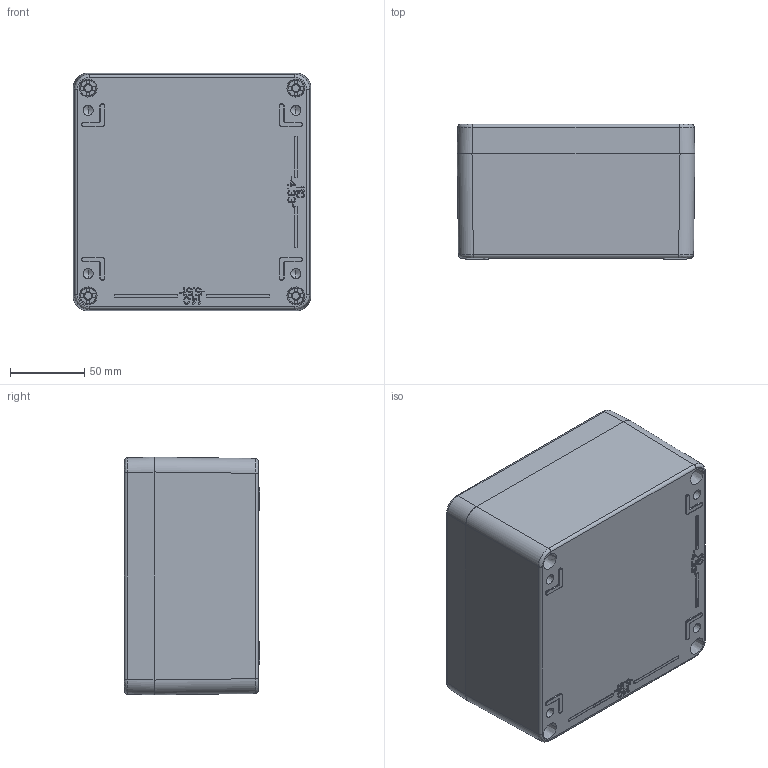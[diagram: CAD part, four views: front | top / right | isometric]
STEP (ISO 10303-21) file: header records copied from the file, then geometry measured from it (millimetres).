
FILE_DESCRIPTION((''),'2;1');
FILE_NAME('1270950000_ASM','2024-02-20T11:14:41',('Stephanie.Hoppe'),(''),'CREO PARAMETRIC BY PTC INC, 2022124','CREO PARAMETRIC BY PTC INC, 2022124','');
FILE_SCHEMA(('AUTOMOTIVE_DESIGN { 1 0 10303 214 1 1 1 1 }'));
Products named in the file (11): 9301044000_AF0; 9261018000; 9601347000_ASM; 9601605000_ASM; 9302012000_AF0; 9261116000; 9611141000_ASM; DICHTUNG_CA270_280; 9611356000_ASM; 9261021000; 1270950000_ASM
Assembly tree (16 placements, depth 4):
  1270950000_ASM
    9601605000_ASM
      9601347000_ASM
        9301044000_AF0
        9261018000  x4
    9611356000_ASM
      9611141000_ASM
        9302012000_AF0
        9261116000
      DICHTUNG_CA270_280
    9261021000  x4
Bounding box: 160.15 x 91 x 160.15 mm (x, y, z)
Volume: 555800 mm3; surface area: 249718.2 mm2
Topology: 18 solids, 38 shells, 2028 faces, 5614 edges, 3704 vertices
Faces by surface type: plane 1126, cylinder 491, cone 212, bspline 143, torus 45, sphere 11
Entity records: 102664 total; most frequent: CARTESIAN_POINT 28928, DIRECTION 8469, ORIENTED_EDGE 8342, PRESENTATION_STYLE_ASSIGNMENT 6143, STYLED_ITEM 6136, CURVE_STYLE 4827, EDGE_CURVE 4187, VECTOR 3024
